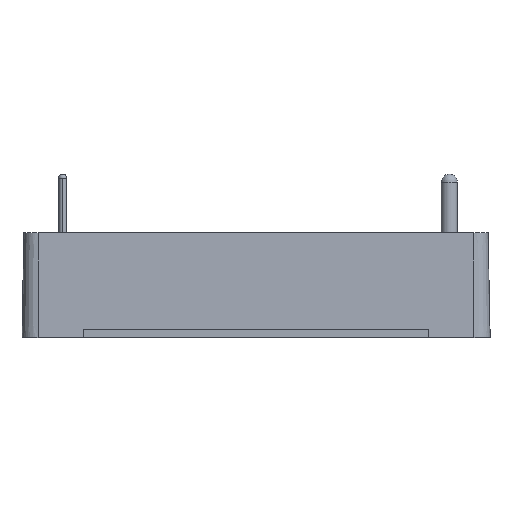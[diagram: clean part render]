
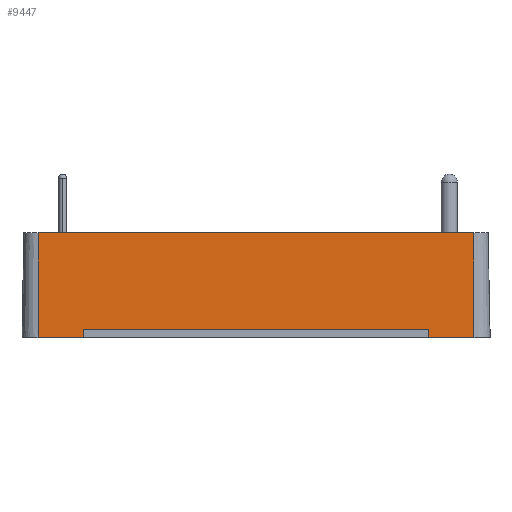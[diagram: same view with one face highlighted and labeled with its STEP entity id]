
A CAD part, top view. The second image highlights one B-rep face of the part: STEP entity #9447.
In plain terms, the highlighted planar face has unit normal (0, 0.018, 1).
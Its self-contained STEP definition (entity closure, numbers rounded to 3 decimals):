
#77 = LINE ( 'NONE', #9058, #3167 ) ;
#196 = EDGE_CURVE ( 'NONE', #11587, #9157, #5929, .T. ) ;
#310 = CARTESIAN_POINT ( 'NONE',  ( -27.2, 0., 30.5 ) ) ;
#365 = ORIENTED_EDGE ( 'NONE', *, *, #4305, .F. ) ;
#399 = LINE ( 'NONE', #7018, #9381 ) ;
#405 = EDGE_CURVE ( 'NONE', #13728, #1257, #13219, .T. ) ;
#830 = VECTOR ( 'NONE', #7213, 1000. ) ;
#1026 = VERTEX_POINT ( 'NONE', #1371 ) ;
#1039 = CARTESIAN_POINT ( 'NONE',  ( -21.58, 0., 30.5 ) ) ;
#1257 = VERTEX_POINT ( 'NONE', #9920 ) ;
#1371 = CARTESIAN_POINT ( 'NONE',  ( 21.58, 1., 30.483 ) ) ;
#1456 = VERTEX_POINT ( 'NONE', #10433 ) ;
#1763 = ORIENTED_EDGE ( 'NONE', *, *, #1822, .F. ) ;
#1822 = EDGE_CURVE ( 'NONE', #8366, #9157, #12990, .T. ) ;
#1823 = CARTESIAN_POINT ( 'NONE',  ( -21.58, 0., 30.5 ) ) ;
#1840 = CARTESIAN_POINT ( 'NONE',  ( 27.2, 0., 30.5 ) ) ;
#2126 = DIRECTION ( 'NONE',  ( 0., 1., -0.017 ) ) ;
#2474 = VECTOR ( 'NONE', #3775, 1000. ) ;
#2490 = ORIENTED_EDGE ( 'NONE', *, *, #14094, .F. ) ;
#2540 = EDGE_CURVE ( 'NONE', #13728, #11587, #7652, .T. ) ;
#2719 = CARTESIAN_POINT ( 'NONE',  ( -21.58, 1., 30.483 ) ) ;
#2965 = VECTOR ( 'NONE', #3504, 1000. ) ;
#3073 = ORIENTED_EDGE ( 'NONE', *, *, #405, .F. ) ;
#3167 = VECTOR ( 'NONE', #11239, 1000. ) ;
#3504 = DIRECTION ( 'NONE',  ( -1., 0., 0. ) ) ;
#3654 = DIRECTION ( 'NONE',  ( 0., 1., -0.017 ) ) ;
#3670 = ORIENTED_EDGE ( 'NONE', *, *, #2540, .T. ) ;
#3775 = DIRECTION ( 'NONE',  ( -1., 0., 0. ) ) ;
#4305 = EDGE_CURVE ( 'NONE', #10721, #8366, #4929, .T. ) ;
#4423 = ORIENTED_EDGE ( 'NONE', *, *, #12075, .T. ) ;
#4929 = LINE ( 'NONE', #6981, #12057 ) ;
#5142 = ORIENTED_EDGE ( 'NONE', *, *, #10543, .F. ) ;
#5428 = CARTESIAN_POINT ( 'NONE',  ( 21.58, 0., 30.5 ) ) ;
#5536 = CARTESIAN_POINT ( 'NONE',  ( 27.2, 0., 30.5 ) ) ;
#5589 = CARTESIAN_POINT ( 'NONE',  ( 27.2, 0., 30.5 ) ) ;
#5929 = LINE ( 'NONE', #13389, #8274 ) ;
#5992 = FACE_OUTER_BOUND ( 'NONE', #12033, .T. ) ;
#6123 = CARTESIAN_POINT ( 'NONE',  ( -27.2, 0., 30.5 ) ) ;
#6175 = VERTEX_POINT ( 'NONE', #10729 ) ;
#6471 = VECTOR ( 'NONE', #13934, 1000. ) ;
#6981 = CARTESIAN_POINT ( 'NONE',  ( 27.2, 0., 30.5 ) ) ;
#7018 = CARTESIAN_POINT ( 'NONE',  ( 27.2, 1., 30.483 ) ) ;
#7117 = CARTESIAN_POINT ( 'NONE',  ( 27.2, 1., 30.483 ) ) ;
#7149 = CARTESIAN_POINT ( 'NONE',  ( -27.2, 13., 30.273 ) ) ;
#7150 = PLANE ( 'NONE',  #8562 ) ;
#7213 = DIRECTION ( 'NONE',  ( 0., 1., -0.017 ) ) ;
#7652 = LINE ( 'NONE', #9817, #8324 ) ;
#8014 = LINE ( 'NONE', #5428, #13978 ) ;
#8274 = VECTOR ( 'NONE', #12376, 1000. ) ;
#8301 = DIRECTION ( 'NONE',  ( 0., 1., -0.017 ) ) ;
#8324 = VECTOR ( 'NONE', #2126, 1000. ) ;
#8354 = ORIENTED_EDGE ( 'NONE', *, *, #12760, .F. ) ;
#8366 = VERTEX_POINT ( 'NONE', #310 ) ;
#8391 = ORIENTED_EDGE ( 'NONE', *, *, #196, .T. ) ;
#8562 = AXIS2_PLACEMENT_3D ( 'NONE', #1840, #10419, #8301 ) ;
#8770 = CARTESIAN_POINT ( 'NONE',  ( 27.2, 13., 30.273 ) ) ;
#9058 = CARTESIAN_POINT ( 'NONE',  ( 27.2, 1., 30.483 ) ) ;
#9157 = VERTEX_POINT ( 'NONE', #7149 ) ;
#9381 = VECTOR ( 'NONE', #11430, 1000. ) ;
#9416 = VERTEX_POINT ( 'NONE', #2719 ) ;
#9447 = ADVANCED_FACE ( 'NONE', ( #5992 ), #7150, .T. ) ;
#9817 = CARTESIAN_POINT ( 'NONE',  ( 27.2, 0., 30.5 ) ) ;
#9920 = CARTESIAN_POINT ( 'NONE',  ( 21.58, 0., 30.5 ) ) ;
#10419 = DIRECTION ( 'NONE',  ( 0., 0.017, 1. ) ) ;
#10433 = CARTESIAN_POINT ( 'NONE',  ( 21.555, 1., 30.483 ) ) ;
#10543 = EDGE_CURVE ( 'NONE', #6175, #9416, #399, .T. ) ;
#10617 = LINE ( 'NONE', #1823, #830 ) ;
#10721 = VERTEX_POINT ( 'NONE', #1039 ) ;
#10729 = CARTESIAN_POINT ( 'NONE',  ( -21.555, 1., 30.483 ) ) ;
#11239 = DIRECTION ( 'NONE',  ( -1., 0., 0. ) ) ;
#11430 = DIRECTION ( 'NONE',  ( -1., 0., 0. ) ) ;
#11587 = VERTEX_POINT ( 'NONE', #8770 ) ;
#12033 = EDGE_LOOP ( 'NONE', ( #2490, #3073, #3670, #8391, #1763, #365, #4423, #5142, #8354, #12222 ) ) ;
#12057 = VECTOR ( 'NONE', #13761, 1000. ) ;
#12075 = EDGE_CURVE ( 'NONE', #10721, #9416, #10617, .T. ) ;
#12222 = ORIENTED_EDGE ( 'NONE', *, *, #12455, .F. ) ;
#12376 = DIRECTION ( 'NONE',  ( -1., 0., 0. ) ) ;
#12455 = EDGE_CURVE ( 'NONE', #1026, #1456, #12819, .T. ) ;
#12760 = EDGE_CURVE ( 'NONE', #1456, #6175, #77, .T. ) ;
#12819 = LINE ( 'NONE', #7117, #2474 ) ;
#12990 = LINE ( 'NONE', #6123, #6471 ) ;
#13219 = LINE ( 'NONE', #5536, #2965 ) ;
#13389 = CARTESIAN_POINT ( 'NONE',  ( -27.2, 13., 30.273 ) ) ;
#13728 = VERTEX_POINT ( 'NONE', #5589 ) ;
#13761 = DIRECTION ( 'NONE',  ( -1., 0., 0. ) ) ;
#13934 = DIRECTION ( 'NONE',  ( 0., 1., -0.017 ) ) ;
#13978 = VECTOR ( 'NONE', #3654, 1000. ) ;
#14094 = EDGE_CURVE ( 'NONE', #1257, #1026, #8014, .T. ) ;
